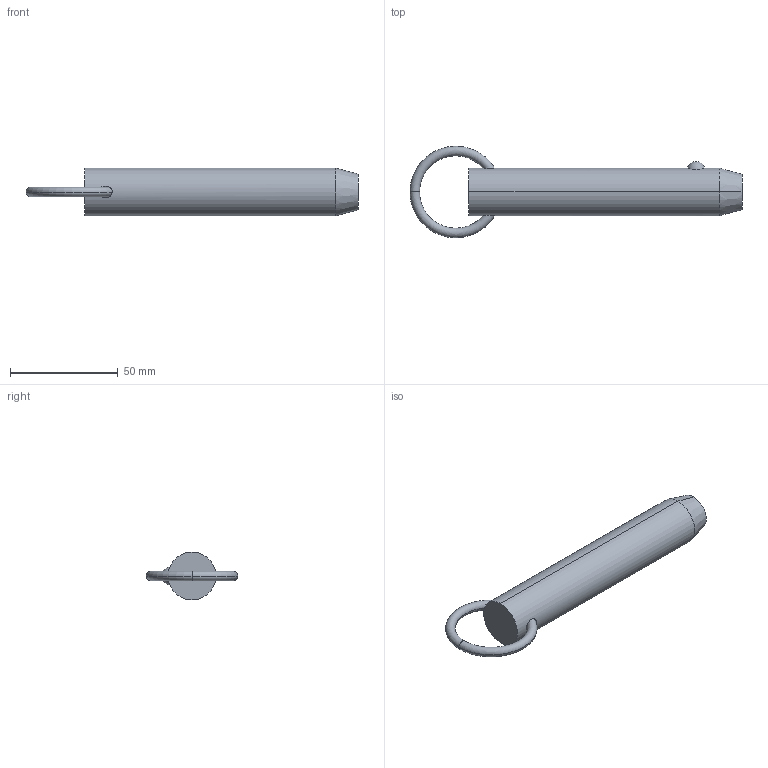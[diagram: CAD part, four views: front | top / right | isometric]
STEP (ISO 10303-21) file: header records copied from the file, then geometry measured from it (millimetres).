
FILE_DESCRIPTION (( 'STEP AP203' ), '1' );
FILE_NAME ('33010.W8835.step', '2024-11-01T10:45:54', ( '' ), ( '' ), 'SwSTEP 2.0', 'SolidWorks 2019', '' );
FILE_SCHEMA (( 'CONFIG_CONTROL_DESIGN' ));
Length unit declared in the file: millimetre
Products named in the file (3): Part2_33010.W8835; 33010.W8835; Part1_33010.W8835
Assembly tree (2 placements, depth 2):
  33010.W8835
    Part1_33010.W8835
    Part2_33010.W8835
Bounding box: 154.36 x 42.55 x 22.23 mm (x, y, z)
Volume: 49759.6 mm3; surface area: 11464.4 mm2
Topology: 2 solids, 2 shells, 16 faces, 31 edges, 18 vertices
Faces by surface type: torus 8, sphere 2, cone 2, cylinder 2, plane 2
Entity records: 903 total; most frequent: CARTESIAN_POINT 260, DIRECTION 88, ORIENTED_EDGE 62, AXIS2_PLACEMENT_3D 42, EDGE_CURVE 31, PERSON_AND_ORGANIZATION 26, CIRCLE 21, EDGE_LOOP 19
